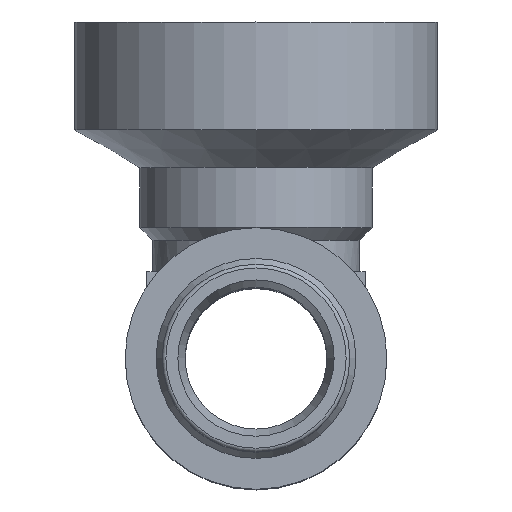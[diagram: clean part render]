
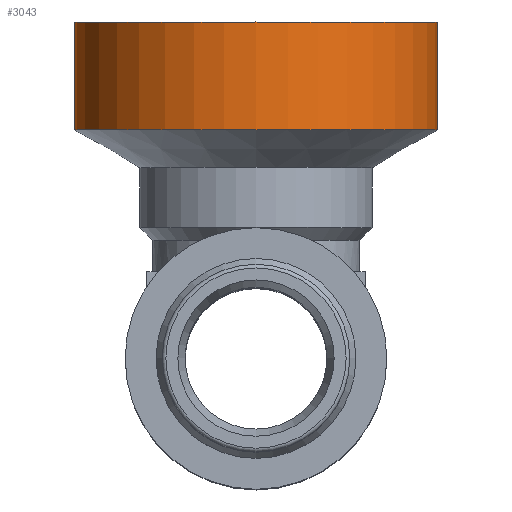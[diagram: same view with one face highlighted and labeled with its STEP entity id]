
A CAD part, top view. The second image highlights one B-rep face of the part: STEP entity #3043.
In plain terms, the highlighted cylindrical face has radius 25 mm (diameter 50 mm), a full revolution.
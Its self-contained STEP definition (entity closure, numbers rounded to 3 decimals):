
#153=CYLINDRICAL_SURFACE('',#3250,25.);
#202=FACE_OUTER_BOUND('',#374,.T.);
#374=EDGE_LOOP('',(#2037,#2038,#2039,#2040,#2041,#2042));
#580=CIRCLE('',#3246,25.);
#581=CIRCLE('',#3247,25.);
#584=CIRCLE('',#3251,25.);
#585=CIRCLE('',#3252,25.);
#799=LINE('',#4673,#1001);
#1001=VECTOR('',#3665,25.);
#1213=VERTEX_POINT('',#4660);
#1214=VERTEX_POINT('',#4661);
#1217=VERTEX_POINT('',#4669);
#1218=VERTEX_POINT('',#4670);
#1553=EDGE_CURVE('',#1213,#1214,#580,.T.);
#1554=EDGE_CURVE('',#1214,#1213,#581,.T.);
#1557=EDGE_CURVE('',#1217,#1218,#584,.T.);
#1558=EDGE_CURVE('',#1218,#1217,#585,.T.);
#1559=EDGE_CURVE('',#1218,#1214,#799,.T.);
#2037=ORIENTED_EDGE('',*,*,#1557,.F.);
#2038=ORIENTED_EDGE('',*,*,#1558,.F.);
#2039=ORIENTED_EDGE('',*,*,#1559,.T.);
#2040=ORIENTED_EDGE('',*,*,#1554,.T.);
#2041=ORIENTED_EDGE('',*,*,#1553,.T.);
#2042=ORIENTED_EDGE('',*,*,#1559,.F.);
#3043=ADVANCED_FACE('',(#202),#153,.T.);
#3246=AXIS2_PLACEMENT_3D('',#4662,#3651,#3652);
#3247=AXIS2_PLACEMENT_3D('',#4663,#3653,#3654);
#3250=AXIS2_PLACEMENT_3D('',#4668,#3659,#3660);
#3251=AXIS2_PLACEMENT_3D('',#4671,#3661,#3662);
#3252=AXIS2_PLACEMENT_3D('',#4672,#3663,#3664);
#3651=DIRECTION('center_axis',(0.,-1.,0.));
#3652=DIRECTION('ref_axis',(1.,0.,0.));
#3653=DIRECTION('center_axis',(0.,-1.,0.));
#3654=DIRECTION('ref_axis',(1.,0.,0.));
#3659=DIRECTION('center_axis',(0.,-1.,0.));
#3660=DIRECTION('ref_axis',(0.,0.,-1.));
#3661=DIRECTION('center_axis',(0.,-1.,0.));
#3662=DIRECTION('ref_axis',(1.,0.,0.));
#3663=DIRECTION('center_axis',(0.,-1.,0.));
#3664=DIRECTION('ref_axis',(1.,0.,0.));
#3665=DIRECTION('',(0.,1.,0.));
#4660=CARTESIAN_POINT('',(0.,46.3,31.5));
#4661=CARTESIAN_POINT('',(0.,46.3,81.5));
#4662=CARTESIAN_POINT('Origin',(0.,46.3,56.5));
#4663=CARTESIAN_POINT('Origin',(0.,46.3,56.5));
#4668=CARTESIAN_POINT('Origin',(0.,38.898,56.5));
#4669=CARTESIAN_POINT('',(0.,31.496,31.5));
#4670=CARTESIAN_POINT('',(0.,31.496,81.5));
#4671=CARTESIAN_POINT('Origin',(0.,31.496,56.5));
#4672=CARTESIAN_POINT('Origin',(0.,31.496,56.5));
#4673=CARTESIAN_POINT('',(0.,38.898,81.5));
